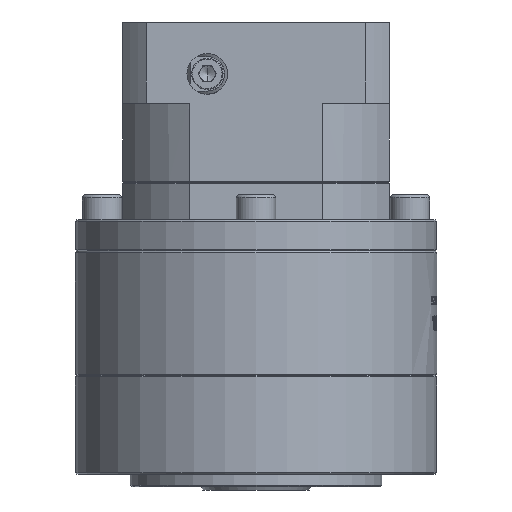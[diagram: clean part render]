
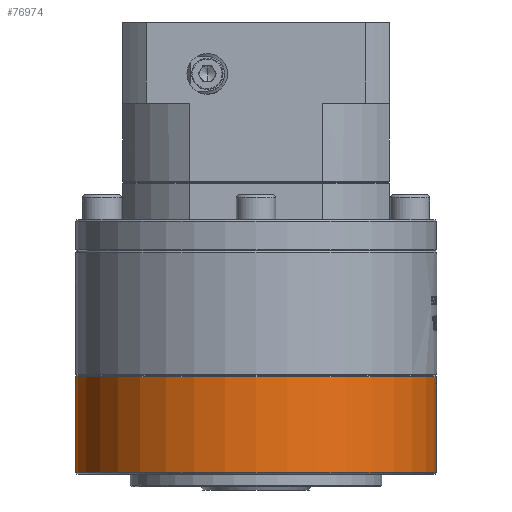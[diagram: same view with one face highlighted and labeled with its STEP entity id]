
A CAD part, left-side view. The second image highlights one B-rep face of the part: STEP entity #76974.
In plain terms, the highlighted cylindrical face has radius 57.5 mm (diameter 115 mm), a partial arc.
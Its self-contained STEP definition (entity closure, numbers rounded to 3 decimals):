
#2334 = AXIS2_PLACEMENT_3D ( 'NONE', #90060, #98531, #44688 ) ;
#6209 = VECTOR ( 'NONE', #10625, 1000. ) ;
#7430 = CARTESIAN_POINT ( 'NONE',  ( 96.218, -32.429, -84.064 ) ) ;
#8597 = DIRECTION ( 'NONE',  ( 0., -1., 0. ) ) ;
#10625 = DIRECTION ( 'NONE',  ( 0., 0., 1. ) ) ;
#11964 = CIRCLE ( 'NONE', #2334, 57.5 ) ;
#15793 = VERTEX_POINT ( 'NONE', #43591 ) ;
#22833 = FACE_OUTER_BOUND ( 'NONE', #56797, .T. ) ;
#24143 = ORIENTED_EDGE ( 'NONE', *, *, #24158, .T. ) ;
#24158 = EDGE_CURVE ( 'NONE', #98694, #28237, #30502, .T. ) ;
#25812 = CIRCLE ( 'NONE', #87691, 57.5 ) ;
#27266 = AXIS2_PLACEMENT_3D ( 'NONE', #7430, #99276, #8597 ) ;
#28237 = VERTEX_POINT ( 'NONE', #93433 ) ;
#30502 = LINE ( 'NONE', #75954, #6209 ) ;
#31495 = CARTESIAN_POINT ( 'NONE',  ( 96.218, 25.071, -66.064 ) ) ;
#35689 = CARTESIAN_POINT ( 'NONE',  ( 96.218, -89.929, -96.564 ) ) ;
#37468 = DIRECTION ( 'NONE',  ( 0., 0., 1. ) ) ;
#43591 = CARTESIAN_POINT ( 'NONE',  ( 96.218, 25.071, -96.564 ) ) ;
#44688 = DIRECTION ( 'NONE',  ( 0., 1., 0. ) ) ;
#45117 = EDGE_CURVE ( 'NONE', #57985, #28237, #11964, .T. ) ;
#46547 = VECTOR ( 'NONE', #37468, 1000. ) ;
#53617 = CARTESIAN_POINT ( 'NONE',  ( 96.218, -32.429, -96.564 ) ) ;
#56797 = EDGE_LOOP ( 'NONE', ( #118629, #108369, #24143, #66622 ) ) ;
#57985 = VERTEX_POINT ( 'NONE', #31495 ) ;
#58733 = EDGE_CURVE ( 'NONE', #15793, #57985, #60944, .T. ) ;
#60944 = LINE ( 'NONE', #109039, #46547 ) ;
#66622 = ORIENTED_EDGE ( 'NONE', *, *, #45117, .F. ) ;
#75954 = CARTESIAN_POINT ( 'NONE',  ( 96.218, -89.929, -84.064 ) ) ;
#76974 = ADVANCED_FACE ( 'NONE', ( #22833 ), #98849, .T. ) ;
#87691 = AXIS2_PLACEMENT_3D ( 'NONE', #53617, #108203, #116230 ) ;
#90060 = CARTESIAN_POINT ( 'NONE',  ( 96.218, -32.429, -66.064 ) ) ;
#93433 = CARTESIAN_POINT ( 'NONE',  ( 96.218, -89.929, -66.064 ) ) ;
#98531 = DIRECTION ( 'NONE',  ( 0., 0., 1. ) ) ;
#98694 = VERTEX_POINT ( 'NONE', #35689 ) ;
#98849 = CYLINDRICAL_SURFACE ( 'NONE', #27266, 57.5 ) ;
#99276 = DIRECTION ( 'NONE',  ( 0., 0., 1. ) ) ;
#108203 = DIRECTION ( 'NONE',  ( 0., 0., 1. ) ) ;
#108369 = ORIENTED_EDGE ( 'NONE', *, *, #113857, .T. ) ;
#109039 = CARTESIAN_POINT ( 'NONE',  ( 96.218, 25.071, -84.064 ) ) ;
#113857 = EDGE_CURVE ( 'NONE', #15793, #98694, #25812, .T. ) ;
#116230 = DIRECTION ( 'NONE',  ( 0., -1., 0. ) ) ;
#118629 = ORIENTED_EDGE ( 'NONE', *, *, #58733, .F. ) ;
